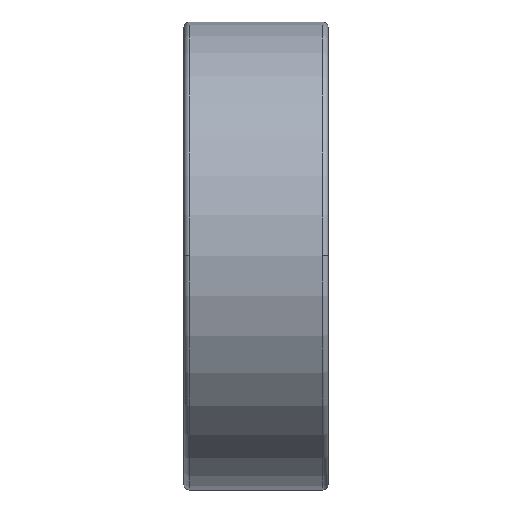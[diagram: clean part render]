
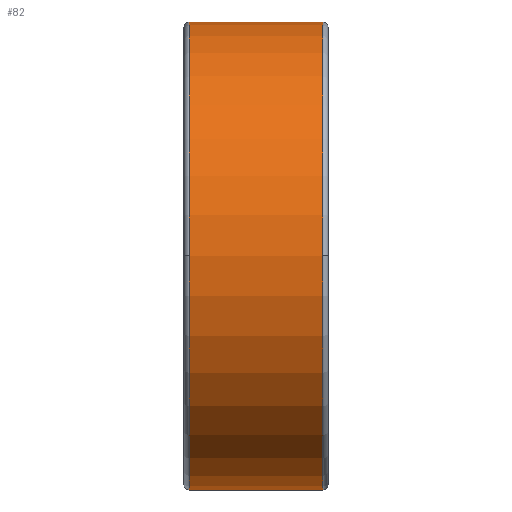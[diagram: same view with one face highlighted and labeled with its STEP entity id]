
A CAD part, top view. The second image highlights one B-rep face of the part: STEP entity #82.
In plain terms, the highlighted cylindrical face has radius 13 mm (diameter 26 mm), a partial arc.
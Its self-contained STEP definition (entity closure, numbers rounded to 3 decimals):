
#82=ADVANCED_FACE('',(#183),#184,.T.);
#183=FACE_OUTER_BOUND('',#391,.T.);
#184=CYLINDRICAL_SURFACE('',#392,13.0);
#391=EDGE_LOOP('',(#623,#624,#625,#626,#627,#628));
#392=AXIS2_PLACEMENT_3D('',#629,#630,#631);
#623=ORIENTED_EDGE('',*,*,#1333,.F.);
#624=ORIENTED_EDGE('',*,*,#1334,.T.);
#625=ORIENTED_EDGE('',*,*,#1335,.T.);
#626=ORIENTED_EDGE('',*,*,#1336,.F.);
#627=ORIENTED_EDGE('',*,*,#1337,.F.);
#628=ORIENTED_EDGE('',*,*,#1329,.F.);
#629=CARTESIAN_POINT('',(4.0,0.0,0.0));
#630=DIRECTION('',(1.0,0.0,0.0));
#631=DIRECTION('',(0.0,1.0,0.0));
#1329=EDGE_CURVE('',#1558,#1560,#1561,.T.);
#1333=EDGE_CURVE('',#1567,#1558,#1568,.T.);
#1334=EDGE_CURVE('',#1567,#1569,#1570,.T.);
#1335=EDGE_CURVE('',#1569,#1571,#1572,.T.);
#1336=EDGE_CURVE('',#1573,#1571,#1574,.T.);
#1337=EDGE_CURVE('',#1560,#1573,#1575,.T.);
#1558=VERTEX_POINT('',#1916);
#1560=VERTEX_POINT('',#1918);
#1561=CIRCLE('',#1919,13.0);
#1567=VERTEX_POINT('',#1925);
#1568=LINE('',#1926,#1927);
#1569=VERTEX_POINT('',#1928);
#1570=CIRCLE('',#1929,13.0);
#1571=VERTEX_POINT('',#1930);
#1572=CIRCLE('',#1931,13.0);
#1573=VERTEX_POINT('',#1932);
#1574=LINE('',#1933,#1934);
#1575=CIRCLE('',#1935,13.0);
#1916=CARTESIAN_POINT('',(7.7,13.0,0.0));
#1918=CARTESIAN_POINT('',(7.7,0.,13.0));
#1919=AXIS2_PLACEMENT_3D('',#2335,#2336,#2337);
#1925=CARTESIAN_POINT('',(0.3,13.0,0.0));
#1926=CARTESIAN_POINT('',(4.0,13.0,0.));
#1927=VECTOR('',#2347,1.0);
#1928=CARTESIAN_POINT('',(0.3,0.,13.0));
#1929=AXIS2_PLACEMENT_3D('',#2348,#2349,#2350);
#1930=CARTESIAN_POINT('',(0.3,-13.0,0.));
#1931=AXIS2_PLACEMENT_3D('',#2351,#2352,#2353);
#1932=CARTESIAN_POINT('',(7.7,-13.0,0.));
#1933=CARTESIAN_POINT('',(4.0,-13.0,0.));
#1934=VECTOR('',#2354,1.0);
#1935=AXIS2_PLACEMENT_3D('',#2355,#2356,#2357);
#2335=CARTESIAN_POINT('',(7.7,0.0,0.0));
#2336=DIRECTION('',(1.0,0.0,0.0));
#2337=DIRECTION('',(0.0,1.0,0.0));
#2347=DIRECTION('',(1.0,0.0,0.0));
#2348=CARTESIAN_POINT('',(0.3,0.0,0.0));
#2349=DIRECTION('',(1.0,0.0,0.0));
#2350=DIRECTION('',(0.0,1.0,0.0));
#2351=CARTESIAN_POINT('',(0.3,0.0,0.0));
#2352=DIRECTION('',(1.0,0.0,0.0));
#2353=DIRECTION('',(0.0,1.0,0.0));
#2354=DIRECTION('',(-1.0,-0.0,-0.0));
#2355=CARTESIAN_POINT('',(7.7,0.0,0.0));
#2356=DIRECTION('',(1.0,0.0,0.0));
#2357=DIRECTION('',(0.0,1.0,0.0));
